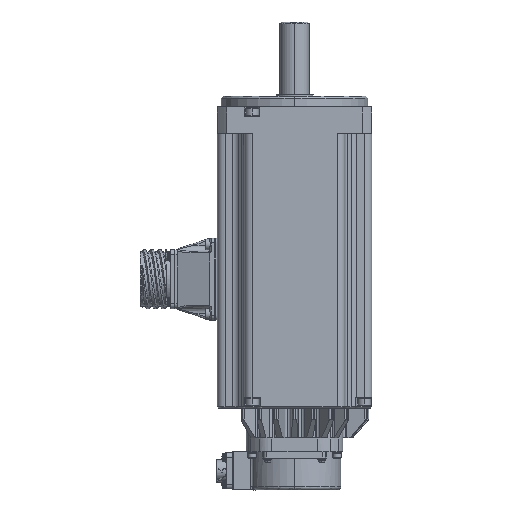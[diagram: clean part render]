
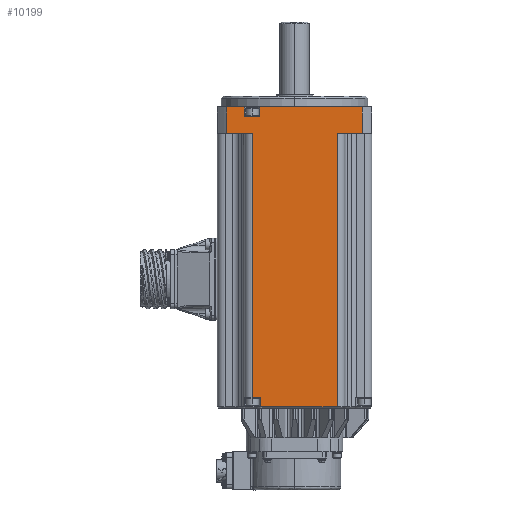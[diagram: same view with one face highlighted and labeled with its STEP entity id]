
A CAD part, left-side view. The second image highlights one B-rep face of the part: STEP entity #10199.
In plain terms, the highlighted planar face has unit normal (-1, 0, 0).
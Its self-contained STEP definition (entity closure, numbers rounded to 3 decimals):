
#1787 = EDGE_CURVE ( 'NONE', #56613, #80763, #10299, .T. ) ;
#1874 = VECTOR ( 'NONE', #31437, 1000. ) ;
#2591 = ORIENTED_EDGE ( 'NONE', *, *, #82668, .F. ) ;
#2771 = ORIENTED_EDGE ( 'NONE', *, *, #13551, .F. ) ;
#3340 = AXIS2_PLACEMENT_3D ( 'NONE', #45804, #19283, #66031 ) ;
#3441 = VECTOR ( 'NONE', #10033, 1000. ) ;
#4612 = CARTESIAN_POINT ( 'NONE',  ( -82.459, 41.249, 212.007 ) ) ;
#5057 = ORIENTED_EDGE ( 'NONE', *, *, #1787, .F. ) ;
#5824 = DIRECTION ( 'NONE',  ( 0., 1., 0. ) ) ;
#5921 = CARTESIAN_POINT ( 'NONE',  ( -82.459, -18.751, 358.507 ) ) ;
#7306 = CARTESIAN_POINT ( 'NONE',  ( -82.459, -18.751, 375.507 ) ) ;
#8136 = LINE ( 'NONE', #7306, #79101 ) ;
#8854 = DIRECTION ( 'NONE',  ( 0., 0., -1. ) ) ;
#9447 = ORIENTED_EDGE ( 'NONE', *, *, #24735, .F. ) ;
#10033 = DIRECTION ( 'NONE',  ( 0., 1., 0. ) ) ;
#10074 = FACE_OUTER_BOUND ( 'NONE', #61969, .T. ) ;
#10199 = ADVANCED_FACE ( 'NONE', ( #10074 ), #12600, .F. ) ;
#10299 = LINE ( 'NONE', #5921, #32194 ) ;
#11396 = DIRECTION ( 'NONE',  ( 0., 1., 0. ) ) ;
#12600 = PLANE ( 'NONE',  #3340 ) ;
#13551 = EDGE_CURVE ( 'NONE', #58972, #62769, #22280, .T. ) ;
#13608 = CARTESIAN_POINT ( 'NONE',  ( -82.459, 36.249, 369.507 ) ) ;
#13682 = VERTEX_POINT ( 'NONE', #48797 ) ;
#14038 = CARTESIAN_POINT ( 'NONE',  ( -82.459, 35.749, 187.507 ) ) ;
#15182 = CARTESIAN_POINT ( 'NONE',  ( -82.459, 36.249, 212.007 ) ) ;
#15400 = EDGE_CURVE ( 'NONE', #72558, #46028, #73300, .T. ) ;
#15485 = LINE ( 'NONE', #78214, #33180 ) ;
#16611 = CARTESIAN_POINT ( 'NONE',  ( -82.459, -13.751, 358.507 ) ) ;
#18611 = ORIENTED_EDGE ( 'NONE', *, *, #80361, .F. ) ;
#19283 = DIRECTION ( 'NONE',  ( 1., 0., 0. ) ) ;
#19866 = ORIENTED_EDGE ( 'NONE', *, *, #29827, .F. ) ;
#20170 = VECTOR ( 'NONE', #20230, 1000. ) ;
#20230 = DIRECTION ( 'NONE',  ( 0., 1., 0. ) ) ;
#20835 = VECTOR ( 'NONE', #25945, 1000. ) ;
#21994 = VECTOR ( 'NONE', #30283, 1000. ) ;
#22060 = EDGE_CURVE ( 'NONE', #46028, #50731, #24874, .T. ) ;
#22162 = VERTEX_POINT ( 'NONE', #72378 ) ;
#22280 = LINE ( 'NONE', #53497, #20170 ) ;
#23263 = EDGE_CURVE ( 'NONE', #23967, #22162, #8136, .T. ) ;
#23967 = VERTEX_POINT ( 'NONE', #48256 ) ;
#24582 = CARTESIAN_POINT ( 'NONE',  ( -82.459, 41.249, 187.507 ) ) ;
#24735 = EDGE_CURVE ( 'NONE', #78759, #58972, #37202, .T. ) ;
#24874 = LINE ( 'NONE', #31193, #42602 ) ;
#25945 = DIRECTION ( 'NONE',  ( 0., 0., 1. ) ) ;
#27412 = LINE ( 'NONE', #75376, #45136 ) ;
#28826 = DIRECTION ( 'NONE',  ( 0., 0., 1. ) ) ;
#29827 = EDGE_CURVE ( 'NONE', #22162, #33037, #27412, .T. ) ;
#30283 = DIRECTION ( 'NONE',  ( 0., -1., 0. ) ) ;
#31193 = CARTESIAN_POINT ( 'NONE',  ( -82.459, -18.751, 358.507 ) ) ;
#31437 = DIRECTION ( 'NONE',  ( 0., 0., 1. ) ) ;
#31446 = DIRECTION ( 'NONE',  ( 0., -1., 0. ) ) ;
#32194 = VECTOR ( 'NONE', #5824, 1000. ) ;
#32767 = LINE ( 'NONE', #4612, #64143 ) ;
#33037 = VERTEX_POINT ( 'NONE', #45517 ) ;
#33180 = VECTOR ( 'NONE', #31446, 1000. ) ;
#34657 = CARTESIAN_POINT ( 'NONE',  ( -82.459, -30.094, 212.007 ) ) ;
#37202 = LINE ( 'NONE', #71755, #1874 ) ;
#38486 = LINE ( 'NONE', #72696, #20835 ) ;
#39327 = ORIENTED_EDGE ( 'NONE', *, *, #63043, .F. ) ;
#39567 = CARTESIAN_POINT ( 'NONE',  ( -82.459, -13.751, 181.507 ) ) ;
#42602 = VECTOR ( 'NONE', #11396, 1000. ) ;
#45136 = VECTOR ( 'NONE', #8854, 1000. ) ;
#45517 = CARTESIAN_POINT ( 'NONE',  ( -82.459, 46.249, 369.507 ) ) ;
#45804 = CARTESIAN_POINT ( 'NONE',  ( -82.459, -18.751, 212.007 ) ) ;
#45823 = VECTOR ( 'NONE', #28826, 1000. ) ;
#46028 = VERTEX_POINT ( 'NONE', #66071 ) ;
#47894 = ORIENTED_EDGE ( 'NONE', *, *, #60549, .F. ) ;
#48256 = CARTESIAN_POINT ( 'NONE',  ( -82.459, 57.593, 375.507 ) ) ;
#48797 = CARTESIAN_POINT ( 'NONE',  ( -82.459, 36.249, 375.507 ) ) ;
#49165 = EDGE_CURVE ( 'NONE', #63116, #78759, #72340, .T. ) ;
#50072 = CARTESIAN_POINT ( 'NONE',  ( -82.459, 57.593, 358.507 ) ) ;
#50731 = VERTEX_POINT ( 'NONE', #16611 ) ;
#51868 = ORIENTED_EDGE ( 'NONE', *, *, #15400, .F. ) ;
#52547 = CARTESIAN_POINT ( 'NONE',  ( -82.459, -13.751, 212.007 ) ) ;
#53497 = CARTESIAN_POINT ( 'NONE',  ( -82.459, -18.751, 187.507 ) ) ;
#53922 = DIRECTION ( 'NONE',  ( 0., -1., 0. ) ) ;
#54858 = DIRECTION ( 'NONE',  ( 0., 0., -1. ) ) ;
#55502 = VECTOR ( 'NONE', #54858, 1000. ) ;
#56613 = VERTEX_POINT ( 'NONE', #65673 ) ;
#56672 = CARTESIAN_POINT ( 'NONE',  ( -82.459, -18.751, 181.507 ) ) ;
#58972 = VERTEX_POINT ( 'NONE', #14038 ) ;
#60549 = EDGE_CURVE ( 'NONE', #13682, #72558, #73181, .T. ) ;
#61809 = VECTOR ( 'NONE', #85770, 1000. ) ;
#61969 = EDGE_LOOP ( 'NONE', ( #83479, #39327, #19866, #77168, #2591, #5057, #62647, #2771, #9447, #81487, #18611, #62164, #51868, #47894 ) ) ;
#62164 = ORIENTED_EDGE ( 'NONE', *, *, #22060, .F. ) ;
#62647 = ORIENTED_EDGE ( 'NONE', *, *, #67590, .F. ) ;
#62769 = VERTEX_POINT ( 'NONE', #24582 ) ;
#63043 = EDGE_CURVE ( 'NONE', #33037, #67790, #15485, .T. ) ;
#63116 = VERTEX_POINT ( 'NONE', #39567 ) ;
#64143 = VECTOR ( 'NONE', #84761, 1000. ) ;
#65673 = CARTESIAN_POINT ( 'NONE',  ( -82.459, 41.249, 358.507 ) ) ;
#65755 = LINE ( 'NONE', #15182, #45823 ) ;
#66031 = DIRECTION ( 'NONE',  ( 0., 0., -1. ) ) ;
#66071 = CARTESIAN_POINT ( 'NONE',  ( -82.459, -30.094, 358.507 ) ) ;
#67590 = EDGE_CURVE ( 'NONE', #62769, #56613, #32767, .T. ) ;
#67790 = VERTEX_POINT ( 'NONE', #13608 ) ;
#69002 = CARTESIAN_POINT ( 'NONE',  ( -82.459, -30.094, 375.507 ) ) ;
#71755 = CARTESIAN_POINT ( 'NONE',  ( -82.459, 35.749, 212.007 ) ) ;
#72231 = CARTESIAN_POINT ( 'NONE',  ( -82.459, 35.749, 181.507 ) ) ;
#72340 = LINE ( 'NONE', #56672, #3441 ) ;
#72378 = CARTESIAN_POINT ( 'NONE',  ( -82.459, 46.249, 375.507 ) ) ;
#72558 = VERTEX_POINT ( 'NONE', #69002 ) ;
#72696 = CARTESIAN_POINT ( 'NONE',  ( -82.459, 57.593, 212.007 ) ) ;
#73181 = LINE ( 'NONE', #77063, #21994 ) ;
#73300 = LINE ( 'NONE', #34657, #55502 ) ;
#75376 = CARTESIAN_POINT ( 'NONE',  ( -82.459, 46.249, 212.007 ) ) ;
#77063 = CARTESIAN_POINT ( 'NONE',  ( -82.459, -18.751, 375.507 ) ) ;
#77168 = ORIENTED_EDGE ( 'NONE', *, *, #23263, .F. ) ;
#78214 = CARTESIAN_POINT ( 'NONE',  ( -82.459, -18.751, 369.507 ) ) ;
#78759 = VERTEX_POINT ( 'NONE', #72231 ) ;
#79101 = VECTOR ( 'NONE', #53922, 1000. ) ;
#80361 = EDGE_CURVE ( 'NONE', #50731, #63116, #81632, .T. ) ;
#80763 = VERTEX_POINT ( 'NONE', #50072 ) ;
#81487 = ORIENTED_EDGE ( 'NONE', *, *, #49165, .F. ) ;
#81632 = LINE ( 'NONE', #52547, #61809 ) ;
#82668 = EDGE_CURVE ( 'NONE', #80763, #23967, #38486, .T. ) ;
#82978 = EDGE_CURVE ( 'NONE', #67790, #13682, #65755, .T. ) ;
#83479 = ORIENTED_EDGE ( 'NONE', *, *, #82978, .F. ) ;
#84761 = DIRECTION ( 'NONE',  ( 0., 0., 1. ) ) ;
#85770 = DIRECTION ( 'NONE',  ( 0., 0., -1. ) ) ;
